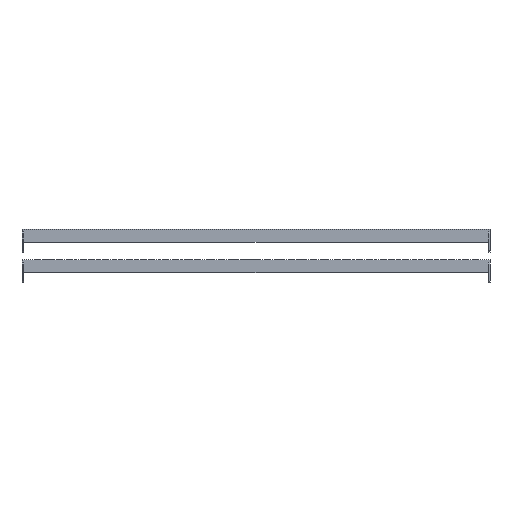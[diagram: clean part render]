
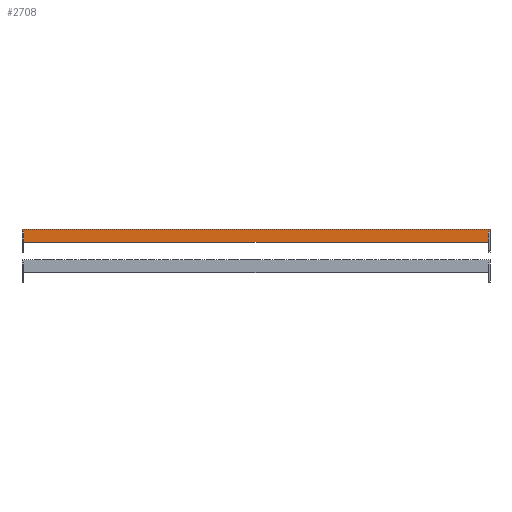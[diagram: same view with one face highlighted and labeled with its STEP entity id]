
A CAD part, top view. The second image highlights one B-rep face of the part: STEP entity #2708.
In plain terms, the highlighted planar face has unit normal (0, 0, 1).
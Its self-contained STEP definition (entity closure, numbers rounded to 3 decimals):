
#9 = CARTESIAN_POINT ( 'NONE',  ( 253.5, 0., 46. ) ) ;
#129 = ORIENTED_EDGE ( 'NONE', *, *, #6395, .F. ) ;
#163 = EDGE_CURVE ( 'NONE', #8113, #7061, #780, .T. ) ;
#294 = CARTESIAN_POINT ( 'NONE',  ( 251.5, -3., 46. ) ) ;
#629 = VECTOR ( 'NONE', #7868, 1000. ) ;
#655 = LINE ( 'NONE', #3765, #3985 ) ;
#780 = LINE ( 'NONE', #2516, #2586 ) ;
#963 = LINE ( 'NONE', #7025, #5931 ) ;
#1077 = ORIENTED_EDGE ( 'NONE', *, *, #7489, .T. ) ;
#1750 = LINE ( 'NONE', #4761, #629 ) ;
#1916 = CARTESIAN_POINT ( 'NONE',  ( 251.5, -14., 46. ) ) ;
#2021 = VERTEX_POINT ( 'NONE', #1916 ) ;
#2067 = ORIENTED_EDGE ( 'NONE', *, *, #2915, .F. ) ;
#2343 = LINE ( 'NONE', #4838, #6914 ) ;
#2446 = CARTESIAN_POINT ( 'NONE',  ( 0., 0., 46. ) ) ;
#2460 = DIRECTION ( 'NONE',  ( 0., -1., 0. ) ) ;
#2466 = VECTOR ( 'NONE', #6648, 1000. ) ;
#2516 = CARTESIAN_POINT ( 'NONE',  ( 253.5, 0., 46. ) ) ;
#2585 = VERTEX_POINT ( 'NONE', #3877 ) ;
#2586 = VECTOR ( 'NONE', #2460, 1000. ) ;
#2708 = ADVANCED_FACE ( 'NONE', ( #3171 ), #3218, .F. ) ;
#2738 = LINE ( 'NONE', #8951, #2466 ) ;
#2915 = EDGE_CURVE ( 'NONE', #3073, #2021, #7076, .T. ) ;
#3073 = VERTEX_POINT ( 'NONE', #294 ) ;
#3171 = FACE_OUTER_BOUND ( 'NONE', #3248, .T. ) ;
#3218 = PLANE ( 'NONE',  #8402 ) ;
#3248 = EDGE_LOOP ( 'NONE', ( #2067, #5135, #7755, #7947, #1077, #7454, #129, #5680 ) ) ;
#3430 = LINE ( 'NONE', #7970, #9207 ) ;
#3765 = CARTESIAN_POINT ( 'NONE',  ( -271.939, 0., 46. ) ) ;
#3877 = CARTESIAN_POINT ( 'NONE',  ( -253.5, -3., 46. ) ) ;
#3985 = VECTOR ( 'NONE', #5956, 1000. ) ;
#4158 = CARTESIAN_POINT ( 'NONE',  ( -251.5, -14., 46. ) ) ;
#4485 = VECTOR ( 'NONE', #5601, 1000. ) ;
#4761 = CARTESIAN_POINT ( 'NONE',  ( -271.939, -14., 46. ) ) ;
#4838 = CARTESIAN_POINT ( 'NONE',  ( -251.5, -3., 46. ) ) ;
#4887 = DIRECTION ( 'NONE',  ( -1., 0., 0. ) ) ;
#5135 = ORIENTED_EDGE ( 'NONE', *, *, #7896, .F. ) ;
#5342 = EDGE_CURVE ( 'NONE', #8449, #2021, #1750, .T. ) ;
#5553 = DIRECTION ( 'NONE',  ( 0., 0., -1. ) ) ;
#5601 = DIRECTION ( 'NONE',  ( 0., -1., 0. ) ) ;
#5680 = ORIENTED_EDGE ( 'NONE', *, *, #5342, .T. ) ;
#5931 = VECTOR ( 'NONE', #8657, 1000. ) ;
#5956 = DIRECTION ( 'NONE',  ( 1., 0., 0. ) ) ;
#6089 = VERTEX_POINT ( 'NONE', #9372 ) ;
#6352 = CARTESIAN_POINT ( 'NONE',  ( 251.5, 0., 46. ) ) ;
#6395 = EDGE_CURVE ( 'NONE', #8449, #8028, #2738, .T. ) ;
#6648 = DIRECTION ( 'NONE',  ( 0., 1., 0. ) ) ;
#6914 = VECTOR ( 'NONE', #4887, 1000. ) ;
#7025 = CARTESIAN_POINT ( 'NONE',  ( -253.5, 0., 46. ) ) ;
#7061 = VERTEX_POINT ( 'NONE', #7133 ) ;
#7076 = LINE ( 'NONE', #6352, #4485 ) ;
#7133 = CARTESIAN_POINT ( 'NONE',  ( 253.5, -3., 46. ) ) ;
#7253 = DIRECTION ( 'NONE',  ( -1., 0., 0. ) ) ;
#7304 = EDGE_CURVE ( 'NONE', #6089, #8113, #655, .T. ) ;
#7452 = EDGE_CURVE ( 'NONE', #8028, #2585, #2343, .T. ) ;
#7454 = ORIENTED_EDGE ( 'NONE', *, *, #7452, .F. ) ;
#7489 = EDGE_CURVE ( 'NONE', #6089, #2585, #963, .T. ) ;
#7755 = ORIENTED_EDGE ( 'NONE', *, *, #163, .F. ) ;
#7868 = DIRECTION ( 'NONE',  ( 1., 0., 0. ) ) ;
#7896 = EDGE_CURVE ( 'NONE', #7061, #3073, #3430, .T. ) ;
#7947 = ORIENTED_EDGE ( 'NONE', *, *, #7304, .F. ) ;
#7970 = CARTESIAN_POINT ( 'NONE',  ( 251.5, -3., 46. ) ) ;
#8028 = VERTEX_POINT ( 'NONE', #8892 ) ;
#8113 = VERTEX_POINT ( 'NONE', #9 ) ;
#8402 = AXIS2_PLACEMENT_3D ( 'NONE', #2446, #5553, #8666 ) ;
#8449 = VERTEX_POINT ( 'NONE', #4158 ) ;
#8657 = DIRECTION ( 'NONE',  ( 0., -1., 0. ) ) ;
#8666 = DIRECTION ( 'NONE',  ( 0., -1., 0. ) ) ;
#8892 = CARTESIAN_POINT ( 'NONE',  ( -251.5, -3., 46. ) ) ;
#8951 = CARTESIAN_POINT ( 'NONE',  ( -251.5, 0., 46. ) ) ;
#9207 = VECTOR ( 'NONE', #7253, 1000. ) ;
#9372 = CARTESIAN_POINT ( 'NONE',  ( -253.5, 0., 46. ) ) ;
